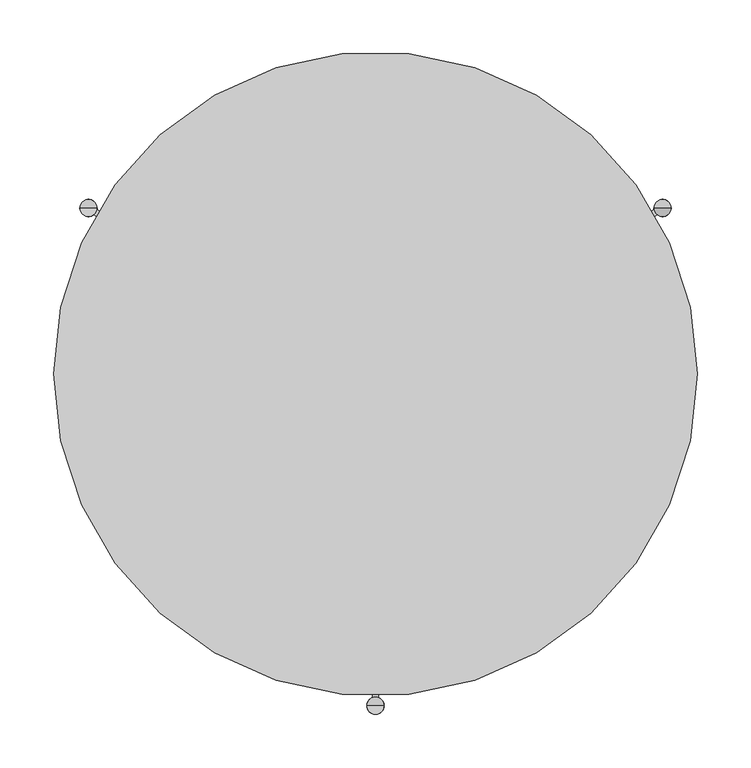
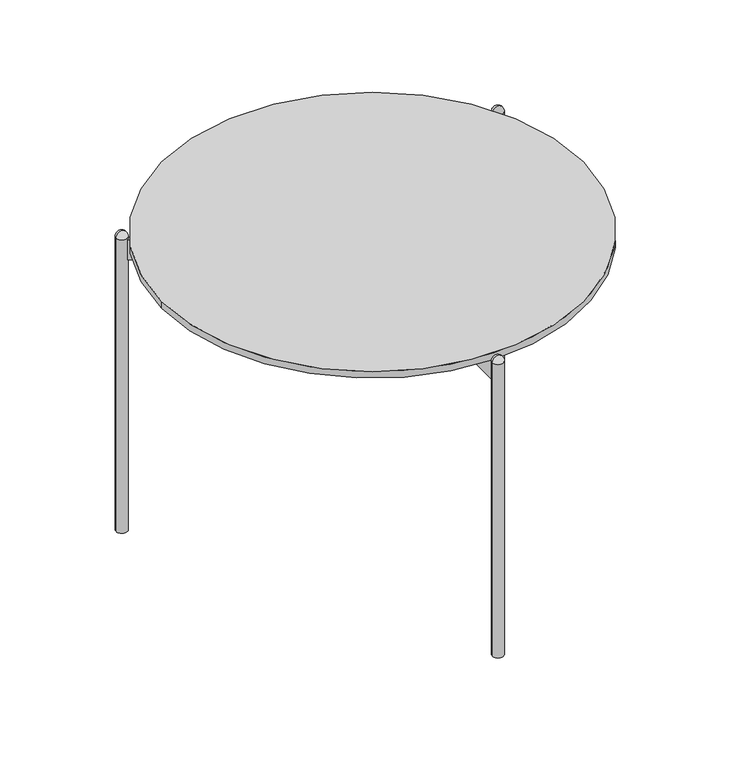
"""IFC4 building model written with IfcOpenShell, lengths in millimetres: furniture geometry, ROUND TABLE_H=45 : EI145B050060A_G."""

import ifcopenshell
import ifcopenshell.guid

model = None  # the IFC model being written
_history = None  # IfcOwnerHistory: only IFC2X3 demands one
_inside = {}  # id of a spatial element -> (the spatial element, [elements in it])
_under = {}  # id of a project, library or spatial element -> (it, [spatial elements below it])
_declared = {}  # id of a project -> (the project, [libraries it declares])
_typed = {}  # id of a type object -> (the type object, [elements of that type])
_made_of = {}  # id of a material, layer set ... -> (it, [elements and type objects made of it])


def new_model(schema):
    """Start an empty IFC model of exactly this schema.

    Asked for "IFC4X3", IfcOpenShell would pick the latest addendum, in which some entities
    have other attributes; the version numbers below select the first issue.
    IFC2X3 requires an IfcOwnerHistory on every rooted entity: one is made here for all.
    """
    global model, _history
    if schema == "IFC4X3":
        model = ifcopenshell.file(schema_version=(4, 3, 0, 0))
    else:
        model = ifcopenshell.file(schema=schema)
    _inside.clear()
    _under.clear()
    _declared.clear()
    _typed.clear()
    _made_of.clear()
    _history = None
    if model.schema == "IFC2X3":
        org = make("IfcOrganization", Name="unknown")
        user = make(
            "IfcPersonAndOrganization",
            ThePerson=make("IfcPerson", FamilyName="unknown"),
            TheOrganization=org,
        )
        app = make(
            "IfcApplication",
            ApplicationDeveloper=org,
            Version="unknown",
            ApplicationFullName="unknown",
            ApplicationIdentifier="unknown",
        )
        _history = make(
            "IfcOwnerHistory",
            OwningUser=user,
            OwningApplication=app,
            ChangeAction="ADDED",
            CreationDate=0,
        )
    return model


def make(cls, **values):
    """One entity of the class cls with the attributes given. An attribute that is None is left unset."""
    return model.create_entity(
        cls, **{name: value for name, value in values.items() if value is not None}
    )


def rooted(cls, **values):
    """An entity with a GlobalId (a new one), such as an element, a storey or a relation."""
    return make(cls, GlobalId=ifcopenshell.guid.new(), OwnerHistory=_history, **values)


def si_unit(unit_type, name, prefix=None):
    """IfcSIUnit, for example si_unit("LENGTHUNIT", "METRE", prefix="MILLI")."""
    return make("IfcSIUnit", UnitType=unit_type, Prefix=prefix, Name=name)


def assignment(units):
    """IfcUnitAssignment: the units of a project."""
    return None if units is None else make("IfcUnitAssignment", Units=units)


def point(xyz):
    """IfcCartesianPoint."""
    return None if xyz is None else make("IfcCartesianPoint", Coordinates=xyz)


def direction(xyz):
    """IfcDirection."""
    return None if xyz is None else make("IfcDirection", DirectionRatios=xyz)


def frame(location, z_axis=None, x_axis=None):
    """IfcAxis2Placement3D, a coordinate frame: its origin and axes. An axis left out is left unset."""
    return make(
        "IfcAxis2Placement3D",
        Location=point(location),
        Axis=direction(z_axis),
        RefDirection=direction(x_axis),
    )


def frame_2d(location, x_axis=None):
    """IfcAxis2Placement2D, a coordinate frame in the plane: its origin and x axis."""
    return make(
        "IfcAxis2Placement2D", Location=point(location), RefDirection=direction(x_axis)
    )


def origin():
    """The frame at (0, 0, 0) with its axes left unset."""
    return frame((0.0, 0.0, 0.0))


def origin_with_axes():
    """The frame at (0, 0, 0) with the z axis (0, 0, 1) and the x axis (1, 0, 0) written out."""
    return frame((0.0, 0.0, 0.0), z_axis=(0.0, 0.0, 1.0), x_axis=(1.0, 0.0, 0.0))


def origin_2d():
    """The frame at (0, 0) in the plane with its x axis left unset."""
    return frame_2d((0.0, 0.0))


def place(relative_to, where):
    """IfcLocalPlacement: puts the frame where relative to a parent placement (None: the world)."""
    return make(
        "IfcLocalPlacement", PlacementRelTo=relative_to, RelativePlacement=where
    )


def context(
    kind, dimensions, precision=None, world=None, true_north=None, identifier=None
):
    """IfcGeometricRepresentationContext, for example the 3D "Model" context."""
    return make(
        "IfcGeometricRepresentationContext",
        ContextIdentifier=identifier,
        ContextType=kind,
        CoordinateSpaceDimension=dimensions,
        Precision=precision,
        WorldCoordinateSystem=world,
        TrueNorth=true_north,
    )


def project(units=None, contexts=None):
    """IfcProject with its units and contexts."""
    return rooted(
        "IfcProject",
        Name="project",
        RepresentationContexts=contexts,
        UnitsInContext=assignment(units),
    )


def spatial(cls, under=None, at=None, **own):
    """A site, building, storey or space (cls), placed at a placement, below another one or the project."""
    s = rooted(cls, ObjectPlacement=at, **own)
    if under is not None:
        _under.setdefault(under.id(), (under, []))[1].append(s)
    return s


def polyline(points):
    """IfcPolyline through the points."""
    return make("IfcPolyline", Points=[point(p) for p in points])


def circle_curve(where, radius):
    """IfcCircle in the frame where."""
    return make("IfcCircle", Position=where, Radius=radius)


def ellipse_curve(where, semi_axis1, semi_axis2):
    """IfcEllipse in the frame where."""
    return make(
        "IfcEllipse", Position=where, SemiAxis1=semi_axis1, SemiAxis2=semi_axis2
    )


def trimmed(basis, trim1, trim2, sense, master):
    """IfcTrimmedCurve: the piece of a basis curve between two trims."""
    return make(
        "IfcTrimmedCurve",
        BasisCurve=basis,
        Trim1=trim1,
        Trim2=trim2,
        SenseAgreement=sense,
        MasterRepresentation=master,
    )


def segment(curve, same_sense, transition):
    """IfcCompositeCurveSegment."""
    return make(
        "IfcCompositeCurveSegment",
        Transition=transition,
        SameSense=same_sense,
        ParentCurve=curve,
    )


def composite_curve(segments, self_intersect=None):
    """IfcCompositeCurve: segments joined end to end."""
    return make("IfcCompositeCurve", Segments=segments, SelfIntersect=self_intersect)


def outline(outer, holes=None, kind="AREA"):
    """IfcArbitraryClosedProfileDef: a profile drawn as a closed curve; with holes, ...WithVoids."""
    if holes is None:
        return make("IfcArbitraryClosedProfileDef", ProfileType=kind, OuterCurve=outer)
    return make(
        "IfcArbitraryProfileDefWithVoids",
        ProfileType=kind,
        OuterCurve=outer,
        InnerCurves=holes,
    )


def extrude(swept, where, along, depth):
    """IfcExtrudedAreaSolid: the profile swept, set in the frame where, extruded along a direction by depth."""
    return make(
        "IfcExtrudedAreaSolid",
        SweptArea=swept,
        Position=where,
        ExtrudedDirection=direction(along),
        Depth=depth,
    )


def shape(context_of_items, identifier, shape_type, items):
    """IfcShapeRepresentation: the items that make up one representation, for example the "Body"."""
    return make(
        "IfcShapeRepresentation",
        ContextOfItems=context_of_items,
        RepresentationIdentifier=identifier,
        RepresentationType=shape_type,
        Items=items,
    )


def source(mapping_origin, context_of_items, identifier, shape_type, items):
    """IfcRepresentationMap: a shape defined once, which mapped items show again and again."""
    return make(
        "IfcRepresentationMap",
        MappingOrigin=mapping_origin,
        MappedRepresentation=shape(context_of_items, identifier, shape_type, items),
    )


def transform(
    local_origin,
    x_axis=None,
    y_axis=None,
    z_axis=None,
    scale=None,
    scale2=None,
    scale3=None,
    uniform=True,
):
    """IfcCartesianTransformationOperator3D, or its non-uniform kind. x_axis, y_axis, z_axis: its Axis1, 2, 3."""
    if uniform:
        return make(
            "IfcCartesianTransformationOperator3D",
            Axis1=direction(x_axis),
            Axis2=direction(y_axis),
            LocalOrigin=point(local_origin),
            Scale=scale,
            Axis3=direction(z_axis),
        )
    return make(
        "IfcCartesianTransformationOperator3DnonUniform",
        Axis1=direction(x_axis),
        Axis2=direction(y_axis),
        LocalOrigin=point(local_origin),
        Scale=scale,
        Axis3=direction(z_axis),
        Scale2=scale2,
        Scale3=scale3,
    )


def mapped(mapping_source, mapping_target):
    """IfcMappedItem: shows the shape of a source again, moved by a transform."""
    return make(
        "IfcMappedItem", MappingSource=mapping_source, MappingTarget=mapping_target
    )


def made_of(thing, what):
    """Note that an element or type object is made of a material, layer set ...; save() writes the relation."""
    if what is not None:
        _made_of.setdefault(what.id(), (what, []))[1].append(thing)
    return thing


def element(
    cls,
    number,
    at=None,
    inside=None,
    cuts=None,
    type_object=None,
    material=None,
    context=None,
    identifier="Body",
    shape_type=None,
    held_by="IfcProductDefinitionShape",
    body=None,
    shapes=None,
    **own,
):
    """One element of the class cls, such as IfcWall. Its Tag is "e" and its number.

    at: its placement. inside: the storey or other place that contains it. cuts: it is an
    opening in that element (IfcRelVoidsElement). A single representation is given by context,
    identifier, shape_type and body (its items); several are given by shapes. held_by: the class
    of the entity that holds the representations. save() writes the other relations.
    """
    e = rooted(cls, Tag="e%d" % number, ObjectPlacement=at, **own)
    if body is not None:
        shapes = [shape(context, identifier, shape_type, body)]
    if shapes is not None:
        e.Representation = make(held_by, Representations=shapes)
    if inside is not None:
        _inside.setdefault(inside.id(), (inside, []))[1].append(e)
    if cuts is not None:
        rooted(
            "IfcRelVoidsElement", RelatingBuildingElement=cuts, RelatedOpeningElement=e
        )
    if type_object is not None:
        _typed.setdefault(type_object.id(), (type_object, []))[1].append(e)
    return made_of(e, material)


def aggregate(whole, parts):
    """IfcRelAggregates: a whole, such as a stair, and the parts it consists of."""
    return rooted("IfcRelAggregates", RelatingObject=whole, RelatedObjects=parts)


def save(model, path):
    """Write the relations noted so far, then the file.

    IfcRelAggregates (storeys below a building ...), IfcRelContainedInSpatialStructure (elements
    in a storey), IfcRelDefinesByType, IfcRelAssociatesMaterial and IfcRelDeclares: one each for
    every whole, place, type object, material and project.
    """
    for whole, parts in _under.values():
        aggregate(whole, parts)
    for where, things in _inside.values():
        rooted(
            "IfcRelContainedInSpatialStructure",
            RelatedElements=things,
            RelatingStructure=where,
        )
    for kind, things in _typed.values():
        rooted("IfcRelDefinesByType", RelatedObjects=things, RelatingType=kind)
    for what, things in _made_of.values():
        rooted("IfcRelAssociatesMaterial", RelatedObjects=things, RelatingMaterial=what)
    for by, libraries in _declared.values():
        rooted("IfcRelDeclares", RelatingContext=by, RelatedDefinitions=libraries)
    model.write(path)


def plane_surface(at):
    """IfcPlane: the flat surface through the origin of the frame at, square to its z axis."""
    return make("IfcPlane", Position=at)


def revolved_surface(curve, axis_point, axis_direction):
    """IfcSurfaceOfRevolution: the curve turned about the line through axis_point along axis_direction."""
    return make(
        "IfcSurfaceOfRevolution",
        SweptCurve=make("IfcArbitraryOpenProfileDef", ProfileType="CURVE", Curve=curve),
        AxisPosition=make("IfcAxis1Placement", Location=point(axis_point), Axis=direction(axis_direction)),
    )


def advanced_brep(points, edges, surfaces, faces):
    """IfcAdvancedBrep: a solid bounded by faces that lie on surfaces and meet in shared edges.

    An edge is (start, end): straight between two places in points (the first is 0);
    or (start, end, curve); or (start, end, curve, False) where it runs against its curve.
    A face is (place in surfaces, loops), or (place, loops, False) where it looks against
    its surface's normal. A loop lists edges by number (the first is 1), with a minus sign
    where the edge is run from its end to its start. The first loop is the outer one.
    """
    corners = [point(p) for p in points]
    vertices = [make("IfcVertexPoint", VertexGeometry=c) for c in corners]
    made = []
    for start, end, *more in edges:
        made.append(
            make(
                "IfcEdgeCurve",
                EdgeStart=vertices[start],
                EdgeEnd=vertices[end],
                EdgeGeometry=more[0] if more else make("IfcPolyline", Points=[corners[start], corners[end]]),
                SameSense=more[1] if len(more) > 1 else True,
            )
        )
    hull = []
    for where, loops, *sense in faces:
        bounds = []
        for j, loop in enumerate(loops):
            ring = [make("IfcOrientedEdge", EdgeElement=made[abs(k) - 1], Orientation=k > 0) for k in loop]
            bounds.append(
                make(
                    "IfcFaceOuterBound" if j == 0 else "IfcFaceBound",
                    Bound=make("IfcEdgeLoop", EdgeList=ring),
                    Orientation=True,
                )
            )
        hull.append(make("IfcAdvancedFace", Bounds=bounds, FaceSurface=surfaces[where], SameSense=sense[0] if sense else True))
    return make("IfcAdvancedBrep", Outer=make("IfcClosedShell", CfsFaces=hull))


def furniture_f1675d91(model_context):
    return source(origin(), model_context, "Body", "SolidModel", [
        extrude(outline(composite_curve([segment(trimmed(circle_curve(origin_2d(), 300.0), [point((-300.0, 0.0))], [point((300.0, 0.0))], False, "CARTESIAN"), True, "CONTINUOUS"), segment(trimmed(circle_curve(origin_2d(), 300.0), [point((300.0, 0.0))], [point((-300.0, 0.0))], False, "CARTESIAN"), True, "CONTINUOUS")], self_intersect=False)), frame((0.0, 0.0, 437.6939464), z_axis=(0.0, 0.0, 1.0), x_axis=(1.0, 0.0, 0.0)), (0.0, 0.0, 1.0), 10.0),
        extrude(outline(composite_curve([segment(polyline([(-19.7129166, 7.9278768), (-262.7443334, 148.2421307)]), True, "CONTINUOUS"), segment(trimmed(circle_curve(frame_2d((-267.6, 154.6)), 8.0), [point((-262.7443334, 148.2421307))], [point((-259.6895089, 153.4066303))], True, "CARTESIAN"), True, "CONTINUOUS"), segment(polyline([(-259.6895089, 153.4066303), (-16.7129166, 13.1240293), (-19.7129166, 7.9278768)]), True, "CONTINUOUS")], self_intersect=False)), frame((0.0, 0.0, 407.6939464), z_axis=(0.0, 0.0, 1.0), x_axis=(1.0, 0.0, 0.0)), (0.0, 0.0, 1.0), 30.0),
        extrude(outline(composite_curve([segment(polyline([(19.7314855, 7.9171561), (16.7314855, 13.1133085), (259.6925075, 153.38692)]), True, "CONTINUOUS"), segment(trimmed(circle_curve(frame_2d((267.6, 154.6)), 8.0), [point((259.6925075, 153.38692))], [point((262.7603454, 148.2299338))], True, "CARTESIAN"), True, "CONTINUOUS"), segment(polyline([(262.7603454, 148.2299338), (19.7314855, 7.9171561)]), True, "CONTINUOUS")], self_intersect=False)), frame((0.0, 0.0, 407.6939464), z_axis=(0.0, 0.0, 1.0), x_axis=(1.0, 0.0, 0.0)), (0.0, 0.0, 1.0), 30.0),
        extrude(outline(composite_curve([segment(polyline([(3.0, -21.0411853), (3.0, -301.5838015)]), True, "CONTINUOUS"), segment(trimmed(circle_curve(frame_2d((0.0, -309.0)), 8.0), [point((3.0, -301.5838015))], [point((-3.0, -301.5838015))], True, "CARTESIAN"), True, "CONTINUOUS"), segment(polyline([(-3.0, -301.5838015), (-3.0, -21.0411853), (3.0, -21.0411853)]), True, "CONTINUOUS")], self_intersect=False)), frame((0.0, 0.0, 407.6939464), z_axis=(0.0, 0.0, 1.0), x_axis=(1.0, 0.0, 0.0)), (0.0, 0.0, 1.0), 30.0),
        advanced_brep(
        [(267.6, 154.6, 449.1666667), (259.6, 154.6, 441.1666667), (275.6, 154.6, 441.1666667), (267.6, 154.6, 441.1666667)],
        [
            (0, 1, circle_curve(frame((267.6, 154.6, 441.1666667), z_axis=(0.0, -1.0, 0.0), x_axis=(1.0, 0.0, 0.0)), 8.0)),
            (1, 2, circle_curve(frame((267.6, 154.6, 441.1666667), z_axis=(0.0, 0.0, 1.0), x_axis=(-1.0, 0.0, 0.0)), 8.0)),
            (2, 0, circle_curve(frame((267.6, 154.6, 441.1666667), z_axis=(0.0, -1.0, 0.0), x_axis=(-1.0, 0.0, 0.0)), 8.0)),
            (2, 1, circle_curve(frame((267.6, 154.6, 441.1666667), z_axis=(0.0, 0.0, 1.0), x_axis=(-1.0, 0.0, 0.0)), 8.0)),
            (1, 3),
            (3, 2),
        ],
        [
            revolved_surface(trimmed(ellipse_curve(frame((267.6, 154.6, 441.1666667), z_axis=(0.0, 1.0, 0.0), x_axis=(1.0, 0.0, 0.0)), 8.0, 8.0), [point((259.6, 154.6, 441.1666667))], [point((267.6, 154.6, 449.1666667))], True, "CARTESIAN"), (267.6, 154.6, 2638.4), (0.0, 0.0, 1.0)),
            plane_surface(frame((267.6, 154.6, 441.1666667), z_axis=(0.0, 0.0, -1.0), x_axis=(-1.0, 0.0, 0.0))),
        ],
        [
            (0, [[1, 2, 3]]),
            (0, [[-3, 4, -1]]),
            (1, [[-2, 5, 6]]),
            (1, [[-4, -6, -5]]),
        ],
    ),
        advanced_brep(
        [(267.6, 154.6, 449.1666667), (259.6, 154.6, 441.1666667), (275.6, 154.6, 441.1666667), (267.6, 154.6, 441.1666667)],
        [
            (0, 1, circle_curve(frame((267.6, 154.6, 441.1666667), z_axis=(0.0, -1.0, 0.0), x_axis=(1.0, 0.0, 0.0)), 8.0)),
            (1, 2, circle_curve(frame((267.6, 154.6, 441.1666667), z_axis=(0.0, 0.0, 1.0), x_axis=(-1.0, 0.0, 0.0)), 8.0)),
            (2, 0, circle_curve(frame((267.6, 154.6, 441.1666667), z_axis=(0.0, -1.0, 0.0), x_axis=(-1.0, 0.0, 0.0)), 8.0)),
            (2, 1, circle_curve(frame((267.6, 154.6, 441.1666667), z_axis=(0.0, 0.0, 1.0), x_axis=(-1.0, 0.0, 0.0)), 8.0)),
            (1, 3),
            (3, 2),
        ],
        [
            revolved_surface(trimmed(ellipse_curve(frame((267.6, 154.6, 441.1666667), z_axis=(0.0, 1.0, 0.0), x_axis=(1.0, 0.0, 0.0)), 8.0, 8.0), [point((259.6, 154.6, 441.1666667))], [point((267.6, 154.6, 449.1666667))], True, "CARTESIAN"), (267.6, 154.6, 2638.4), (0.0, 0.0, 1.0)),
            plane_surface(frame((267.6, 154.6, 441.1666667), z_axis=(0.0, 0.0, -1.0), x_axis=(-1.0, 0.0, 0.0))),
        ],
        [
            (0, [[1, 2, 3]]),
            (0, [[-3, 4, -1]]),
            (1, [[-2, 5, 6]]),
            (1, [[-4, -6, -5]]),
        ],
    ),
        advanced_brep(
        [(-275.6, 154.6, 441.1666667), (-259.6, 154.6, 441.1666667), (-267.6, 154.6, 449.1666667), (-267.6, 154.6, 441.1666667)],
        [
            (0, 1, circle_curve(frame((-267.6, 154.6, 441.1666667), z_axis=(0.0, 0.0, 1.0), x_axis=(1.0, 0.0, 0.0)), 8.0)),
            (1, 2, circle_curve(frame((-267.6, 154.6, 441.1666667), z_axis=(0.0, -1.0, 0.0), x_axis=(-1.0, 0.0, 0.0)), 8.0)),
            (2, 0, circle_curve(frame((-267.6, 154.6, 441.1666667), z_axis=(0.0, -1.0, 0.0), x_axis=(1.0, 0.0, 0.0)), 8.0)),
            (1, 0, circle_curve(frame((-267.6, 154.6, 441.1666667), z_axis=(0.0, 0.0, 1.0), x_axis=(1.0, 0.0, 0.0)), 8.0)),
            (3, 1),
            (0, 3),
        ],
        [
            revolved_surface(trimmed(ellipse_curve(frame((-267.6, 154.6, 441.1666667), z_axis=(0.0, 1.0, 0.0), x_axis=(-1.0, 0.0, 0.0)), 8.0, 8.0), [point((-267.6, 154.6, 449.1666667))], [point((-259.6, 154.6, 441.1666667))], True, "CARTESIAN"), (-267.6, 154.6, 2638.4), (0.0, 0.0, -1.0)),
            plane_surface(frame((-267.6, 154.6, 441.1666667), z_axis=(0.0, 0.0, -1.0), x_axis=(1.0, 0.0, 0.0))),
        ],
        [
            (0, [[1, 2, 3]]),
            (0, [[4, -3, -2]]),
            (1, [[5, -1, 6]]),
            (1, [[-6, -4, -5]]),
        ],
    ),
        advanced_brep(
        [(-8.025371, -309.0, 441.1666667), (7.974629, -309.0, 441.1666667), (-0.025371, -309.0, 449.1666667), (-0.025371, -309.0, 441.1666667)],
        [
            (0, 1, circle_curve(frame((-0.025371, -309.0, 441.1666667), z_axis=(0.0, 0.0, 1.0), x_axis=(1.0, 0.0, 0.0)), 8.0)),
            (1, 2, circle_curve(frame((-0.025371, -309.0, 441.1666667), z_axis=(0.0, -1.0, 0.0), x_axis=(-1.0, 0.0, 0.0)), 8.0)),
            (2, 0, circle_curve(frame((-0.025371, -309.0, 441.1666667), z_axis=(0.0, -1.0, 0.0), x_axis=(1.0, 0.0, 0.0)), 8.0)),
            (1, 0, circle_curve(frame((-0.025371, -309.0, 441.1666667), z_axis=(0.0, 0.0, 1.0), x_axis=(1.0, 0.0, 0.0)), 8.0)),
            (3, 1),
            (0, 3),
        ],
        [
            revolved_surface(trimmed(ellipse_curve(frame((-0.025371, -309.0, 441.1666667), z_axis=(0.0, 1.0, 0.0), x_axis=(-1.0, 0.0, 0.0)), 8.0, 8.0), [point((-0.025371, -309.0, 449.1666667))], [point((7.974629, -309.0, 441.1666667))], True, "CARTESIAN"), (-0.025371, -309.0, 2638.4), (0.0, 0.0, -1.0)),
            plane_surface(frame((-0.025371, -309.0, 441.1666667), z_axis=(0.0, 0.0, -1.0), x_axis=(1.0, 0.0, 0.0))),
        ],
        [
            (0, [[1, 2, 3]]),
            (0, [[4, -3, -2]]),
            (1, [[5, -1, 6]]),
            (1, [[-6, -4, -5]]),
        ],
    ),
        extrude(outline(composite_curve([segment(trimmed(circle_curve(origin_2d(), 23.0), [point((-23.0, 0.0))], [point((23.0, 0.0))], False, "CARTESIAN"), True, "CONTINUOUS"), segment(trimmed(circle_curve(origin_2d(), 23.0), [point((23.0, 0.0))], [point((-23.0, 0.0))], False, "CARTESIAN"), True, "CONTINUOUS")], self_intersect=False)), frame((0.0, 0.0, 407.6939464), z_axis=(0.0, 0.0, 1.0), x_axis=(1.0, 0.0, 0.0)), (0.0, 0.0, 1.0), 30.0),
        extrude(outline(composite_curve([segment(trimmed(circle_curve(frame_2d((-267.6, 154.6)), 8.0), [point((-275.6, 154.6))], [point((-259.6, 154.6))], False, "CARTESIAN"), True, "CONTINUOUS"), segment(trimmed(circle_curve(frame_2d((-267.6, 154.6)), 8.0), [point((-259.6, 154.6))], [point((-275.6, 154.6))], False, "CARTESIAN"), True, "CONTINUOUS")], self_intersect=False)), origin_with_axes(), (0.0, 0.0, 1.0), 441.1666667),
        extrude(outline(composite_curve([segment(trimmed(circle_curve(frame_2d((267.6, 154.6)), 8.0), [point((259.6, 154.6))], [point((275.6, 154.6))], False, "CARTESIAN"), True, "CONTINUOUS"), segment(trimmed(circle_curve(frame_2d((267.6, 154.6)), 8.0), [point((275.6, 154.6))], [point((259.6, 154.6))], False, "CARTESIAN"), True, "CONTINUOUS")], self_intersect=False)), origin_with_axes(), (0.0, 0.0, 1.0), 441.1666667),
        extrude(outline(composite_curve([segment(trimmed(circle_curve(frame_2d((0.0, -309.0)), 8.0), [point((-8.0, -309.0))], [point((8.0, -309.0))], False, "CARTESIAN"), True, "CONTINUOUS"), segment(trimmed(circle_curve(frame_2d((0.0, -309.0)), 8.0), [point((8.0, -309.0))], [point((-8.0, -309.0))], False, "CARTESIAN"), True, "CONTINUOUS")], self_intersect=False)), origin_with_axes(), (0.0, 0.0, 1.0), 441.1666667),
    ])


if __name__ == "__main__":
    model = new_model("IFC4")
    model_context = context("Model", 3, world=origin())
    ifc_project = project(units=[si_unit("LENGTHUNIT", "METRE", prefix="MILLI")], contexts=[model_context])
    site = spatial("IfcSite", under=ifc_project)
    building = spatial("IfcBuilding", under=site)
    placement = place(None, origin())
    furniture_shape = furniture_f1675d91(model_context)
    element("IfcFurniture", 1, ObjectType="ROUND TABLE_H=45 : EI145B050060A_G", at=placement, inside=building, context=model_context, shape_type="MappedRepresentation", body=[
        mapped(furniture_shape, transform((0.0, 0.0, 0.0), x_axis=(1.0, 0.0, 0.0), y_axis=(0.0, 1.0, 0.0), z_axis=(0.0, 0.0, 1.0))),
    ])
    save(model, "model.ifc")
